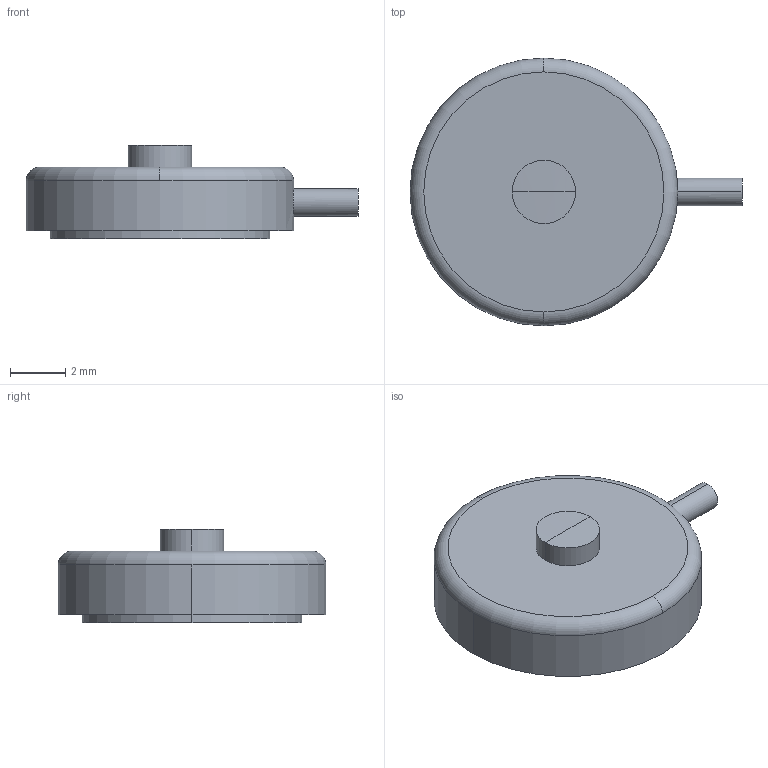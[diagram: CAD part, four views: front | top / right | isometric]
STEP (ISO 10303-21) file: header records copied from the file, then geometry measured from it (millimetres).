
FILE_DESCRIPTION(('STEP AP203'),'1');
FILE_NAME('C:/TPO v2/SharedFS/Outgoing/burster_8413-10-v010_f09qw8ztib6py7t5rljyvdkpz.stp','2013-08-27T14:40:17',('TraceParts'),('TraceParts S.A.'),'XStep 1.0',' ',' ');
FILE_SCHEMA(('CONFIG_CONTROL_DESIGN'));
Length unit declared in the file: millimetre
Products named in the file (1): 1
Bounding box: 12.03 x 9.7 x 3.4 mm (x, y, z)
Volume: 188.4 mm3; surface area: 231.7 mm2
Topology: 1 solids, 1 shells, 16 faces, 37 edges, 23 vertices
Faces by surface type: cylinder 8, plane 4, sphere 2, torus 2
Entity records: 527 total; most frequent: CARTESIAN_POINT 110, DIRECTION 89, ORIENTED_EDGE 70, AXIS2_PLACEMENT_3D 40, EDGE_CURVE 35, VERTEX_POINT 23, CIRCLE 23, EDGE_LOOP 18
